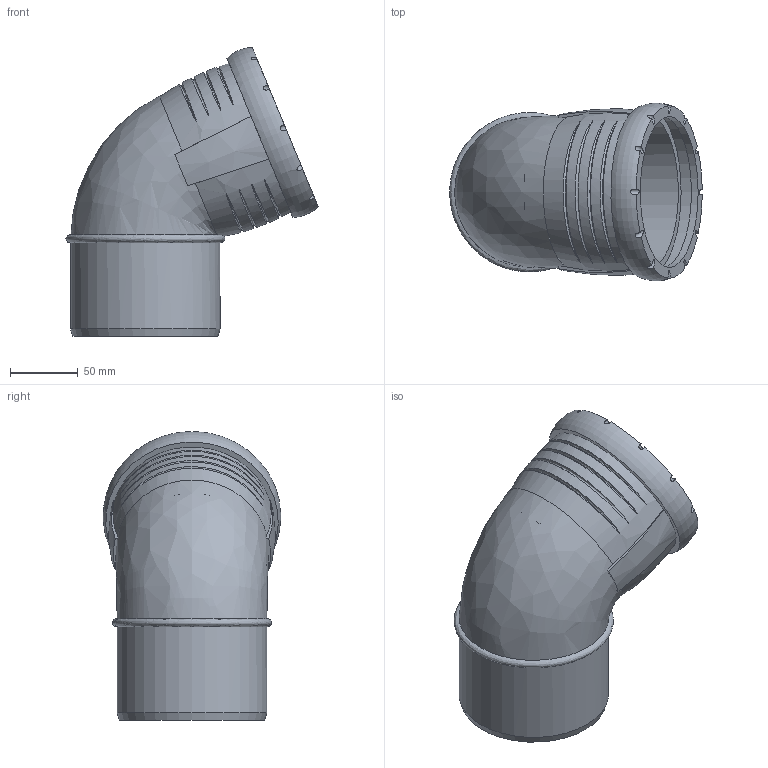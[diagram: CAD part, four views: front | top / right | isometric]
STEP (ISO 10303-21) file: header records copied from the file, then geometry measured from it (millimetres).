
FILE_DESCRIPTION(/* description */ (''),/* implementation_level */ '2;1');
FILE_NAME(/* name */ 'H:\Geberit-Teile\Export\Bogen_TEST\stp\393523.stp',/* time_stamp */ '2017-02-14T10:13:11+01:00',/* author */ ('seihe2'),/* organization */ (''),/* preprocessor_version */ 'ST-DEVELOPER v15.2',/* originating_system */ 'Autodesk Inventor 2014',/* authorisation */ '');
FILE_SCHEMA (('AUTOMOTIVE_DESIGN { 1 0 10303 214 3 1 1 }'));
Length unit declared in the file: millimetre
Products named in the file (1): 393523
Bounding box: 186.15 x 130.89 x 213.02 mm (x, y, z)
Volume: 967264.6 mm3; surface area: 172871.3 mm2
Topology: 2 solids, 2 shells, 56 faces, 138 edges, 97 vertices
Faces by surface type: bspline 23, cylinder 20, plane 10, cone 2, torus 1
Full cylindrical faces by diameter (mm): 90 x1, 101.2 x1, 110.2 x1, 111 x1, 111.3 x1, 121.5 x1
Entity records: 4211 total; most frequent: CARTESIAN_POINT 2966, ORIENTED_EDGE 256, DIRECTION 194, EDGE_CURVE 127, VERTEX_POINT 95, AXIS2_PLACEMENT_3D 95, EDGE_LOOP 79, B_SPLINE_CURVE_WITH_KNOTS 61
